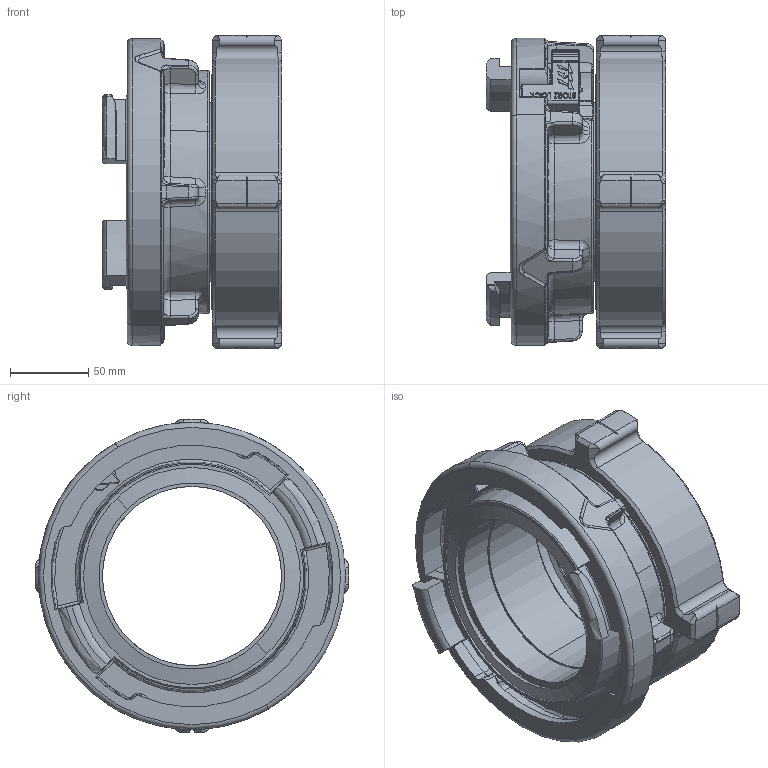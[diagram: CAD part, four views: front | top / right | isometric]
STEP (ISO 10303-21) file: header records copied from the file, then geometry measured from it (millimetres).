
FILE_DESCRIPTION (( 'STEP AP203' ), '1' );
FILE_NAME ('AA1ST-NR.step', '2014-05-13T18:31:12', ( 'user' ), ( '' ), 'SwSTEP 2.0', 'SolidWorks 2012', '' );
FILE_SCHEMA (( 'CONFIG_CONTROL_DESIGN' ));
Length unit declared in the file: inch
Products named in the file (1): AA1ST-NR
Bounding box: 114.33 x 199.97 x 200.01 mm (x, y, z)
Surface area: 211138.6 mm2 (no closed solid volume)
Topology: 0 solids, 14 shells, 966 faces, 3386 edges, 2297 vertices
Faces by surface type: plane 294, bspline 289, cylinder 202, cone 106, torus 62, sphere 13
Entity records: 53358 total; most frequent: CARTESIAN_POINT 28448, ORIENTED_EDGE 5552, DIRECTION 4040, EDGE_CURVE 3384, VERTEX_POINT 2297, AXIS2_PLACEMENT_3D 1350, VECTOR 1340, LINE 1340
